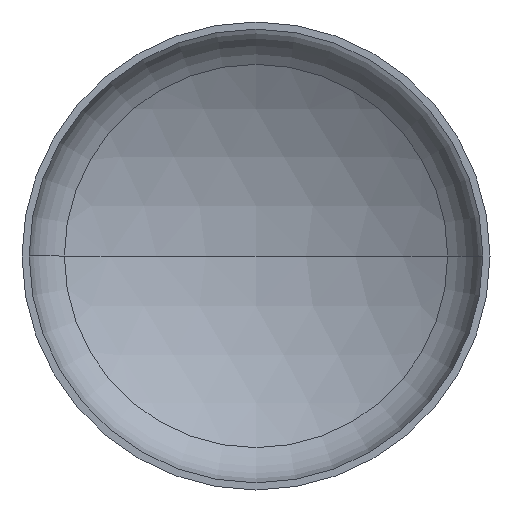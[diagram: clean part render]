
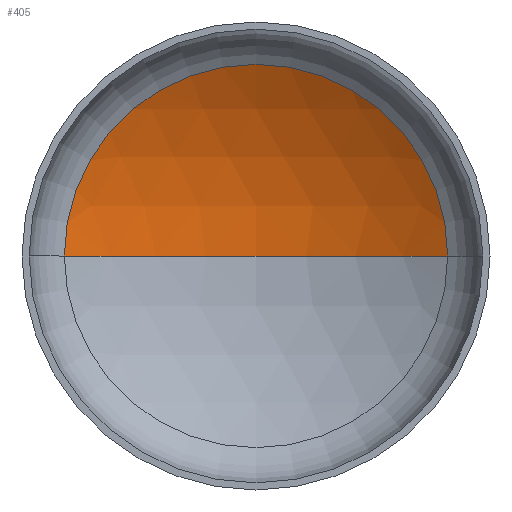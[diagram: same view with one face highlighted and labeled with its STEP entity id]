
A CAD part, front view. The second image highlights one B-rep face of the part: STEP entity #405.
In plain terms, the highlighted spherical face has radius 2080 mm.
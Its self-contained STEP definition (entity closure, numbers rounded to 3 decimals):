
#9 = EDGE_LOOP ( 'NONE', ( #109, #72, #28 ) ) ;
#20 = DIRECTION ( 'NONE',  ( 1., 0., 0. ) ) ;
#21 = CIRCLE ( 'NONE', #60, 2080. ) ;
#24 = DIRECTION ( 'NONE',  ( 0., -1., 0. ) ) ;
#28 = ORIENTED_EDGE ( 'NONE', *, *, #147, .T. ) ;
#60 = AXIS2_PLACEMENT_3D ( 'NONE', #193, #203, #206 ) ;
#62 = AXIS2_PLACEMENT_3D ( 'NONE', #158, #407, #248 ) ;
#69 = AXIS2_PLACEMENT_3D ( 'NONE', #342, #24, #20 ) ;
#72 = ORIENTED_EDGE ( 'NONE', *, *, #148, .T. ) ;
#100 = VERTEX_POINT ( 'NONE', #242 ) ;
#103 = VERTEX_POINT ( 'NONE', #288 ) ;
#109 = ORIENTED_EDGE ( 'NONE', *, *, #151, .F. ) ;
#112 = VERTEX_POINT ( 'NONE', #336 ) ;
#147 = EDGE_CURVE ( 'NONE', #112, #100, #241, .T. ) ;
#148 = EDGE_CURVE ( 'NONE', #103, #112, #304, .T. ) ;
#151 = EDGE_CURVE ( 'NONE', #103, #100, #21, .T. ) ;
#158 = CARTESIAN_POINT ( 'NONE',  ( 0., -1323.191, 0. ) ) ;
#177 = AXIS2_PLACEMENT_3D ( 'NONE', #392, #213, #211 ) ;
#192 = FACE_OUTER_BOUND ( 'NONE', #9, .T. ) ;
#193 = CARTESIAN_POINT ( 'NONE',  ( 0., -1323.191, 0. ) ) ;
#203 = DIRECTION ( 'NONE',  ( 0., 0., 1. ) ) ;
#206 = DIRECTION ( 'NONE',  ( 1., 0., 0. ) ) ;
#211 = DIRECTION ( 'NONE',  ( -1., 0., 0. ) ) ;
#213 = DIRECTION ( 'NONE',  ( 0., 0., -1. ) ) ;
#241 = CIRCLE ( 'NONE', #69, 1064.762 ) ;
#242 = CARTESIAN_POINT ( 'NONE',  ( -1064.762, 463.617, 0. ) ) ;
#248 = DIRECTION ( 'NONE',  ( -1., 0., 0. ) ) ;
#288 = CARTESIAN_POINT ( 'NONE',  ( 0., 756.809, 0. ) ) ;
#304 = CIRCLE ( 'NONE', #62, 2080. ) ;
#312 = SPHERICAL_SURFACE ( 'NONE', #177, 2080. ) ;
#336 = CARTESIAN_POINT ( 'NONE',  ( 1064.762, 463.617, 0. ) ) ;
#342 = CARTESIAN_POINT ( 'NONE',  ( 0., 463.617, 0. ) ) ;
#392 = CARTESIAN_POINT ( 'NONE',  ( 0., -1323.191, 0. ) ) ;
#405 = ADVANCED_FACE ( 'NONE', ( #192 ), #312, .F. ) ;
#407 = DIRECTION ( 'NONE',  ( 0., 0., -1. ) ) ;
